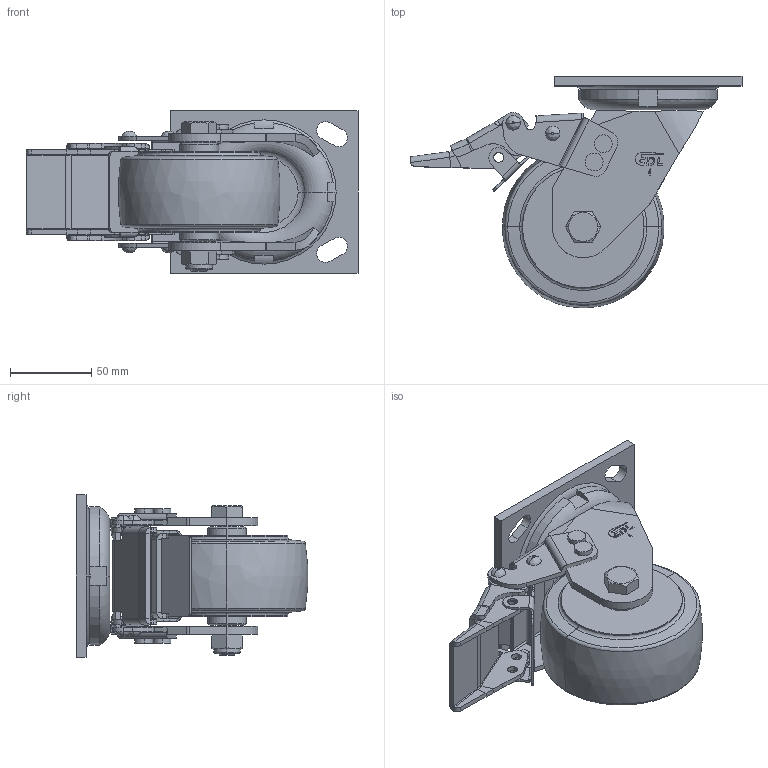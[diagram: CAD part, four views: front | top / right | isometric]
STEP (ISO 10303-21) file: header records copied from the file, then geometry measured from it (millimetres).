
FILE_DESCRIPTION((''),'2;1');
FILE_NAME('73124L-734-86_ASM','2020-11-27T',('lenovo'),(''),'PRO/ENGINEER BY PARAMETRIC TECHNOLOGY CORPORATION, 2010280','PRO/ENGINEER BY PARAMETRIC TECHNOLOGY CORPORATION, 2010280','');
FILE_SCHEMA(('CONFIG_CONTROL_DESIGN'));
Length unit declared in the file: millimetre
Products named in the file (12): 7310-201; 7310-211; 7314-355; 7314-321_ASM; 7314-525; 700-142; 7314-401; 700-141; 734-86; 7010-33; 7010-34; 73124L-734-86_ASM
Assembly tree (11 placements, depth 3):
  73124L-734-86_ASM
    7310-201
    7314-321_ASM
      7310-211
      7314-355
    7314-525
    700-142
    7314-401
    700-141
    734-86
    7010-33
    7010-34
Bounding box: 204.92 x 142.83 x 100 mm (x, y, z)
Volume: 603006.1 mm3; surface area: 140153.4 mm2
Topology: 11 solids, 11 shells, 598 faces, 1426 edges, 870 vertices
Faces by surface type: plane 285, cylinder 177, torus 62, bspline 52, cone 22
Entity records: 19796 total; most frequent: CARTESIAN_POINT 5759, DIRECTION 2894, ORIENTED_EDGE 2852, EDGE_CURVE 1426, AXIS2_PLACEMENT_3D 1055, VERTEX_POINT 870, VECTOR 784, LINE 784
